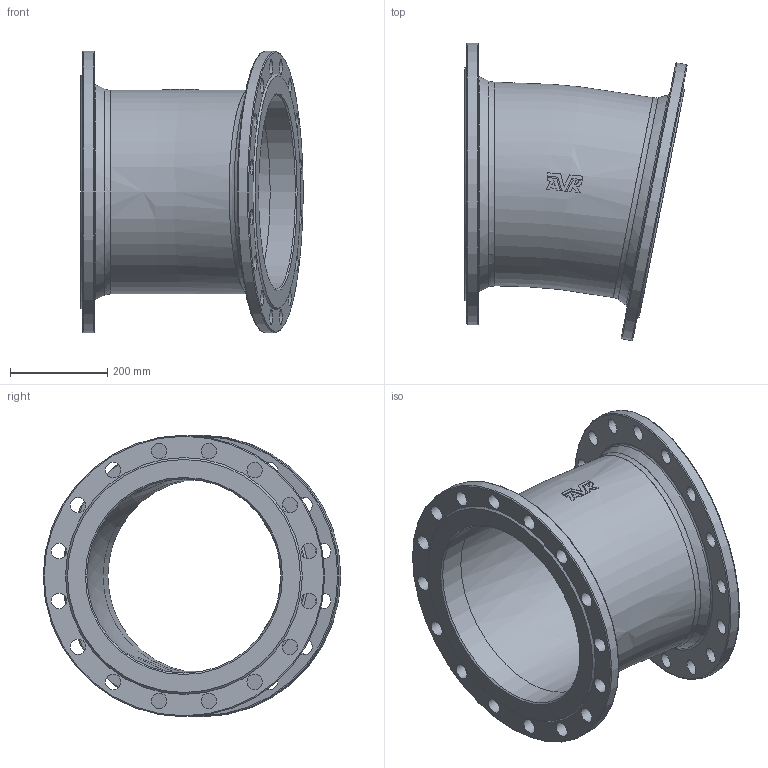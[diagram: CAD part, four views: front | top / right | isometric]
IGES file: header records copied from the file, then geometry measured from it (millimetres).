
Start section: SolidWorks IGES file using analytic representation for surfaces
Global section: file name: \\avksan2\techshare\PBM outline export from Enovia\O_712_0110_DN400_1X_REV02.igs; native system: SolidWorks 2022; preprocessor: SolidWorks 2022; author: pbm; date: 240815.110906; units: millimetre
Bounding box: 458.34 x 613.27 x 580 mm (x, y, z)
Surface area: 1589861.4 mm2 (no closed solid volume)
Topology: 0 solids, 0 shells, 99 faces, 492 edges, 440 vertices
Faces by surface type: revolution 56, bspline 43
